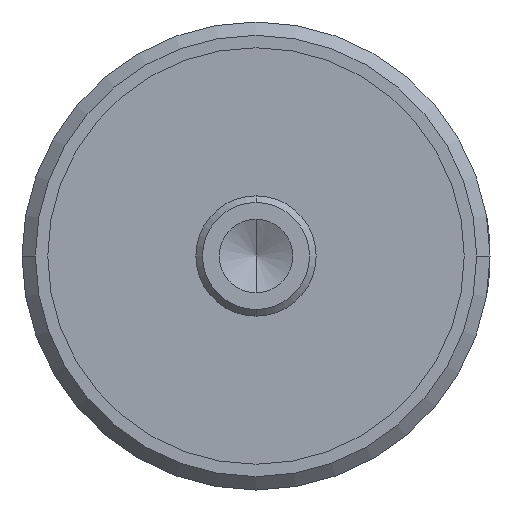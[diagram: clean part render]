
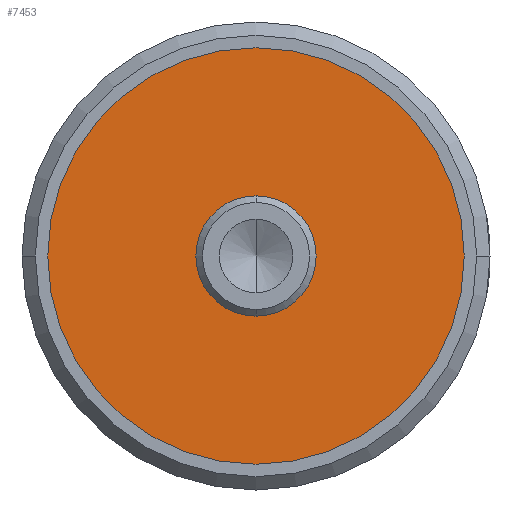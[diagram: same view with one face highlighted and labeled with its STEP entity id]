
A CAD part, front view. The second image highlights one B-rep face of the part: STEP entity #7453.
In plain terms, the highlighted planar face has unit normal (0, -1, 0).
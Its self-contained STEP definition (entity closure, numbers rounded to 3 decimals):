
#57=CARTESIAN_POINT('',(0.,0.3,0.));
#58=DIRECTION('',(0.,-1.,0.));
#59=DIRECTION('',(0.,0.,-1.));
#60=AXIS2_PLACEMENT_3D('',#57,#58,#59);
#62=CARTESIAN_POINT('',(0.,0.3,0.));
#63=DIRECTION('',(0.,-1.,0.));
#64=DIRECTION('',(0.,0.,1.));
#65=AXIS2_PLACEMENT_3D('',#62,#63,#64);
#67=CARTESIAN_POINT('',(0.,0.3,0.));
#68=DIRECTION('',(0.,-1.,0.));
#69=DIRECTION('',(0.,0.,-1.));
#70=AXIS2_PLACEMENT_3D('',#67,#68,#69);
#72=CARTESIAN_POINT('',(0.,0.3,0.));
#73=DIRECTION('',(0.,-1.,0.));
#74=DIRECTION('',(0.,0.,1.));
#75=AXIS2_PLACEMENT_3D('',#72,#73,#74);
#5990=CARTESIAN_POINT('',(0.,0.3,-0.9));
#5991=VERTEX_POINT('',#5990);
#5992=CARTESIAN_POINT('',(0.,0.3,0.9));
#5993=VERTEX_POINT('',#5992);
#6756=CARTESIAN_POINT('',(0.,0.3,3.25));
#6757=CARTESIAN_POINT('',(0.,0.3,-3.25));
#6758=VERTEX_POINT('',#6756);
#6759=VERTEX_POINT('',#6757);
#7438=CARTESIAN_POINT('',(0.,0.3,0.));
#7439=DIRECTION('',(0.,-1.,0.));
#7440=DIRECTION('',(0.,0.,-1.));
#7441=AXIS2_PLACEMENT_3D('',#7438,#7439,#7440);
#7442=PLANE('',#7441);
#7443=ORIENTED_EDGE('',*,*,#7432,.F.);
#7444=ORIENTED_EDGE('',*,*,#7418,.F.);
#7445=EDGE_LOOP('',(#7443,#7444));
#7446=FACE_OUTER_BOUND('',#7445,.F.);
#7448=ORIENTED_EDGE('',*,*,#7447,.T.);
#7450=ORIENTED_EDGE('',*,*,#7449,.T.);
#7451=EDGE_LOOP('',(#7448,#7450));
#7452=FACE_BOUND('',#7451,.F.);
#61=CIRCLE('',#60,3.25);
#66=CIRCLE('',#65,3.25);
#71=CIRCLE('',#70,0.9);
#76=CIRCLE('',#75,0.9);
#7418=EDGE_CURVE('',#6758,#6759,#66,.T.);
#7432=EDGE_CURVE('',#6759,#6758,#61,.T.);
#7447=EDGE_CURVE('',#5991,#5993,#71,.T.);
#7449=EDGE_CURVE('',#5993,#5991,#76,.T.);
#7453=ADVANCED_FACE('',(#7446,#7452),#7442,.T.);
